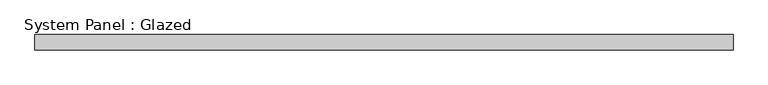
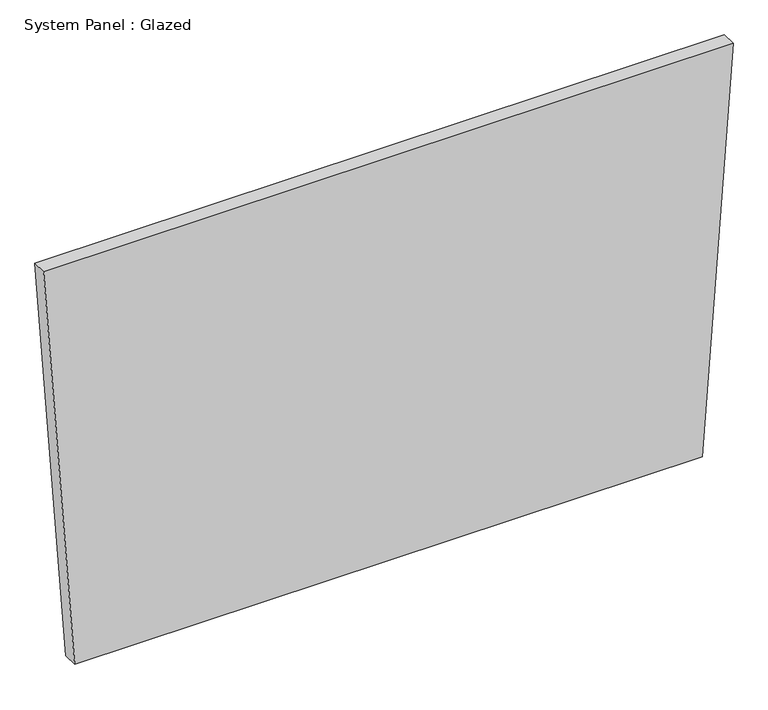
"""IFC4 building model written with IfcOpenShell, lengths in millimetres: plate geometry, System Panel : Glazed."""

import ifcopenshell
import ifcopenshell.guid

model = None  # the IFC model being written
_history = None  # IfcOwnerHistory: only IFC2X3 demands one
_inside = {}  # id of a spatial element -> (the spatial element, [elements in it])
_under = {}  # id of a project, library or spatial element -> (it, [spatial elements below it])
_declared = {}  # id of a project -> (the project, [libraries it declares])
_typed = {}  # id of a type object -> (the type object, [elements of that type])
_made_of = {}  # id of a material, layer set ... -> (it, [elements and type objects made of it])


def new_model(schema):
    """Start an empty IFC model of exactly this schema.

    Asked for "IFC4X3", IfcOpenShell would pick the latest addendum, in which some entities
    have other attributes; the version numbers below select the first issue.
    IFC2X3 requires an IfcOwnerHistory on every rooted entity: one is made here for all.
    """
    global model, _history
    if schema == "IFC4X3":
        model = ifcopenshell.file(schema_version=(4, 3, 0, 0))
    else:
        model = ifcopenshell.file(schema=schema)
    _inside.clear()
    _under.clear()
    _declared.clear()
    _typed.clear()
    _made_of.clear()
    _history = None
    if model.schema == "IFC2X3":
        org = make("IfcOrganization", Name="unknown")
        user = make(
            "IfcPersonAndOrganization",
            ThePerson=make("IfcPerson", FamilyName="unknown"),
            TheOrganization=org,
        )
        app = make(
            "IfcApplication",
            ApplicationDeveloper=org,
            Version="unknown",
            ApplicationFullName="unknown",
            ApplicationIdentifier="unknown",
        )
        _history = make(
            "IfcOwnerHistory",
            OwningUser=user,
            OwningApplication=app,
            ChangeAction="ADDED",
            CreationDate=0,
        )
    return model


def make(cls, **values):
    """One entity of the class cls with the attributes given. An attribute that is None is left unset."""
    return model.create_entity(
        cls, **{name: value for name, value in values.items() if value is not None}
    )


def rooted(cls, **values):
    """An entity with a GlobalId (a new one), such as an element, a storey or a relation."""
    return make(cls, GlobalId=ifcopenshell.guid.new(), OwnerHistory=_history, **values)


def si_unit(unit_type, name, prefix=None):
    """IfcSIUnit, for example si_unit("LENGTHUNIT", "METRE", prefix="MILLI")."""
    return make("IfcSIUnit", UnitType=unit_type, Prefix=prefix, Name=name)


def assignment(units):
    """IfcUnitAssignment: the units of a project."""
    return None if units is None else make("IfcUnitAssignment", Units=units)


def point(xyz):
    """IfcCartesianPoint."""
    return None if xyz is None else make("IfcCartesianPoint", Coordinates=xyz)


def direction(xyz):
    """IfcDirection."""
    return None if xyz is None else make("IfcDirection", DirectionRatios=xyz)


def frame(location, z_axis=None, x_axis=None):
    """IfcAxis2Placement3D, a coordinate frame: its origin and axes. An axis left out is left unset."""
    return make(
        "IfcAxis2Placement3D",
        Location=point(location),
        Axis=direction(z_axis),
        RefDirection=direction(x_axis),
    )


def origin():
    """The frame at (0, 0, 0) with its axes left unset."""
    return frame((0.0, 0.0, 0.0))


def place(relative_to, where):
    """IfcLocalPlacement: puts the frame where relative to a parent placement (None: the world)."""
    return make(
        "IfcLocalPlacement", PlacementRelTo=relative_to, RelativePlacement=where
    )


def context(
    kind, dimensions, precision=None, world=None, true_north=None, identifier=None
):
    """IfcGeometricRepresentationContext, for example the 3D "Model" context."""
    return make(
        "IfcGeometricRepresentationContext",
        ContextIdentifier=identifier,
        ContextType=kind,
        CoordinateSpaceDimension=dimensions,
        Precision=precision,
        WorldCoordinateSystem=world,
        TrueNorth=true_north,
    )


def project(units=None, contexts=None):
    """IfcProject with its units and contexts."""
    return rooted(
        "IfcProject",
        Name="project",
        RepresentationContexts=contexts,
        UnitsInContext=assignment(units),
    )


def spatial(cls, under=None, at=None, **own):
    """A site, building, storey or space (cls), placed at a placement, below another one or the project."""
    s = rooted(cls, ObjectPlacement=at, **own)
    if under is not None:
        _under.setdefault(under.id(), (under, []))[1].append(s)
    return s


def polyline(points):
    """IfcPolyline through the points."""
    return make("IfcPolyline", Points=[point(p) for p in points])


def outline(outer, holes=None, kind="AREA"):
    """IfcArbitraryClosedProfileDef: a profile drawn as a closed curve; with holes, ...WithVoids."""
    if holes is None:
        return make("IfcArbitraryClosedProfileDef", ProfileType=kind, OuterCurve=outer)
    return make(
        "IfcArbitraryProfileDefWithVoids",
        ProfileType=kind,
        OuterCurve=outer,
        InnerCurves=holes,
    )


def extrude(swept, where, along, depth):
    """IfcExtrudedAreaSolid: the profile swept, set in the frame where, extruded along a direction by depth."""
    return make(
        "IfcExtrudedAreaSolid",
        SweptArea=swept,
        Position=where,
        ExtrudedDirection=direction(along),
        Depth=depth,
    )


def shape(context_of_items, identifier, shape_type, items):
    """IfcShapeRepresentation: the items that make up one representation, for example the "Body"."""
    return make(
        "IfcShapeRepresentation",
        ContextOfItems=context_of_items,
        RepresentationIdentifier=identifier,
        RepresentationType=shape_type,
        Items=items,
    )


def source(mapping_origin, context_of_items, identifier, shape_type, items):
    """IfcRepresentationMap: a shape defined once, which mapped items show again and again."""
    return make(
        "IfcRepresentationMap",
        MappingOrigin=mapping_origin,
        MappedRepresentation=shape(context_of_items, identifier, shape_type, items),
    )


def transform(
    local_origin,
    x_axis=None,
    y_axis=None,
    z_axis=None,
    scale=None,
    scale2=None,
    scale3=None,
    uniform=True,
):
    """IfcCartesianTransformationOperator3D, or its non-uniform kind. x_axis, y_axis, z_axis: its Axis1, 2, 3."""
    if uniform:
        return make(
            "IfcCartesianTransformationOperator3D",
            Axis1=direction(x_axis),
            Axis2=direction(y_axis),
            LocalOrigin=point(local_origin),
            Scale=scale,
            Axis3=direction(z_axis),
        )
    return make(
        "IfcCartesianTransformationOperator3DnonUniform",
        Axis1=direction(x_axis),
        Axis2=direction(y_axis),
        LocalOrigin=point(local_origin),
        Scale=scale,
        Axis3=direction(z_axis),
        Scale2=scale2,
        Scale3=scale3,
    )


def mapped(mapping_source, mapping_target):
    """IfcMappedItem: shows the shape of a source again, moved by a transform."""
    return make(
        "IfcMappedItem", MappingSource=mapping_source, MappingTarget=mapping_target
    )


def made_of(thing, what):
    """Note that an element or type object is made of a material, layer set ...; save() writes the relation."""
    if what is not None:
        _made_of.setdefault(what.id(), (what, []))[1].append(thing)
    return thing


def element(
    cls,
    number,
    at=None,
    inside=None,
    cuts=None,
    type_object=None,
    material=None,
    context=None,
    identifier="Body",
    shape_type=None,
    held_by="IfcProductDefinitionShape",
    body=None,
    shapes=None,
    **own,
):
    """One element of the class cls, such as IfcWall. Its Tag is "e" and its number.

    at: its placement. inside: the storey or other place that contains it. cuts: it is an
    opening in that element (IfcRelVoidsElement). A single representation is given by context,
    identifier, shape_type and body (its items); several are given by shapes. held_by: the class
    of the entity that holds the representations. save() writes the other relations.
    """
    e = rooted(cls, Tag="e%d" % number, ObjectPlacement=at, **own)
    if body is not None:
        shapes = [shape(context, identifier, shape_type, body)]
    if shapes is not None:
        e.Representation = make(held_by, Representations=shapes)
    if inside is not None:
        _inside.setdefault(inside.id(), (inside, []))[1].append(e)
    if cuts is not None:
        rooted(
            "IfcRelVoidsElement", RelatingBuildingElement=cuts, RelatedOpeningElement=e
        )
    if type_object is not None:
        _typed.setdefault(type_object.id(), (type_object, []))[1].append(e)
    return made_of(e, material)


def aggregate(whole, parts):
    """IfcRelAggregates: a whole, such as a stair, and the parts it consists of."""
    return rooted("IfcRelAggregates", RelatingObject=whole, RelatedObjects=parts)


def save(model, path):
    """Write the relations noted so far, then the file.

    IfcRelAggregates (storeys below a building ...), IfcRelContainedInSpatialStructure (elements
    in a storey), IfcRelDefinesByType, IfcRelAssociatesMaterial and IfcRelDeclares: one each for
    every whole, place, type object, material and project.
    """
    for whole, parts in _under.values():
        aggregate(whole, parts)
    for where, things in _inside.values():
        rooted(
            "IfcRelContainedInSpatialStructure",
            RelatedElements=things,
            RelatingStructure=where,
        )
    for kind, things in _typed.values():
        rooted("IfcRelDefinesByType", RelatedObjects=things, RelatingType=kind)
    for what, things in _made_of.values():
        rooted("IfcRelAssociatesMaterial", RelatedObjects=things, RelatingMaterial=what)
    for by, libraries in _declared.values():
        rooted("IfcRelDeclares", RelatingContext=by, RelatedDefinitions=libraries)
    model.write(path)


def system_panel_glazed_3e9f0f07(model_context):
    return source(origin(), model_context, "Body", "SweptSolid", [
        extrude(outline(polyline([(0.0, -532.5454324), (0.0, 532.5452337), (722.9826554, 585.2264117), (722.9799287, -585.2264117), (0.0, -532.5454324)])), frame((0.0, 19.05, 0.0), z_axis=(0.0, 1.0, 0.0), x_axis=(0.0, 0.0, 1.0)), (0.0, 0.0, 1.0), 25.4),
    ])


if __name__ == "__main__":
    model = new_model("IFC4")
    model_context = context("Model", 3, world=origin())
    ifc_project = project(units=[si_unit("LENGTHUNIT", "METRE", prefix="MILLI")], contexts=[model_context])
    site = spatial("IfcSite", under=ifc_project)
    building = spatial("IfcBuilding", under=site)
    placement = place(None, origin())
    system_panel_glazed_shape = system_panel_glazed_3e9f0f07(model_context)
    element("IfcPlate", 1, ObjectType="System Panel : Glazed", at=placement, inside=building, context=model_context, shape_type="MappedRepresentation", body=[
        mapped(system_panel_glazed_shape, transform((0.0, 0.0, 0.0), x_axis=(1.0, 0.0, 0.0), y_axis=(0.0, 1.0, 0.0), z_axis=(0.0, 0.0, 1.0))),
    ])
    save(model, "model.ifc")
